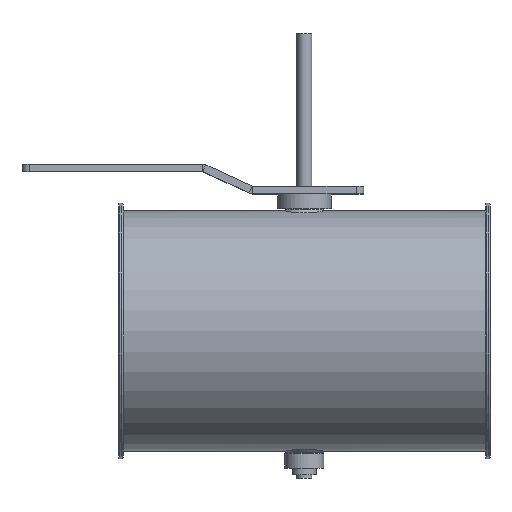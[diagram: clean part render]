
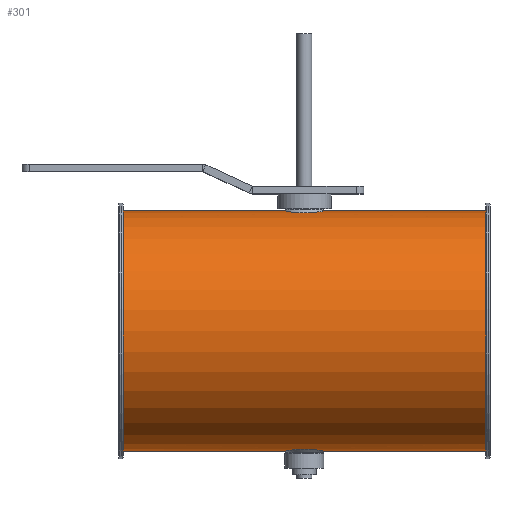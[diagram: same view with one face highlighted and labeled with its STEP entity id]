
A CAD part, top view. The second image highlights one B-rep face of the part: STEP entity #301.
In plain terms, the highlighted cylindrical face has radius 80.8 mm (diameter 161.6 mm), a full revolution.
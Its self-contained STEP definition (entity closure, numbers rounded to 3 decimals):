
#239=B_SPLINE_CURVE_WITH_KNOTS('',3,(#1883,#1884,#1885,#1886,#1887,#1888,
#1889,#1890,#1891,#1892,#1893,#1894,#1895,#1896,#1897,#1898,#1899,#1900,
#1901,#1902,#1903,#1904),.UNSPECIFIED.,.T.,.F.,(2,2,2,2,2,2,2,2,2,2,2,2,
2),(-0.063,0.,0.125,0.25,0.375,0.437,
0.5,0.625,0.75,0.875,0.938,1.,1.125),
 .UNSPECIFIED.);
#240=B_SPLINE_CURVE_WITH_KNOTS('',3,(#1906,#1907,#1908,#1909,#1910,#1911,
#1912,#1913,#1914,#1915,#1916,#1917,#1918,#1919,#1920,#1921,#1922,#1923,
#1924,#1925,#1926,#1927),.UNSPECIFIED.,.T.,.F.,(2,2,2,2,2,2,2,2,2,2,2,2,
2),(-0.125,0.,0.062,0.125,0.25,0.375,0.5,0.563,
0.625,0.75,0.875,1.,1.063),.UNSPECIFIED.);
#266=CYLINDRICAL_SURFACE('',#1328,80.8);
#301=ADVANCED_FACE('',(#441,#442,#443,#444),#266,.T.);
#441=FACE_BOUND('',#575,.T.);
#442=FACE_BOUND('',#576,.T.);
#443=FACE_BOUND('',#577,.T.);
#444=FACE_BOUND('',#578,.T.);
#575=EDGE_LOOP('',(#739));
#576=EDGE_LOOP('',(#740));
#577=EDGE_LOOP('',(#741));
#578=EDGE_LOOP('',(#742));
#739=ORIENTED_EDGE('',*,*,#1107,.T.);
#740=ORIENTED_EDGE('',*,*,#1108,.T.);
#741=ORIENTED_EDGE('',*,*,#1109,.T.);
#742=ORIENTED_EDGE('',*,*,#1110,.F.);
#1001=VERTEX_POINT('',#1882);
#1002=VERTEX_POINT('',#1905);
#1003=VERTEX_POINT('',#1928);
#1004=VERTEX_POINT('',#1930);
#1107=EDGE_CURVE('',#1001,#1001,#1241,.T.);
#1108=EDGE_CURVE('',#1002,#1002,#239,.T.);
#1109=EDGE_CURVE('',#1003,#1003,#240,.T.);
#1110=EDGE_CURVE('',#1004,#1004,#1242,.T.);
#1241=CIRCLE('',#1326,80.8);
#1242=CIRCLE('',#1327,80.8);
#1326=AXIS2_PLACEMENT_3D('',#1881,#1506,#1507);
#1327=AXIS2_PLACEMENT_3D('',#1929,#1508,#1509);
#1328=AXIS2_PLACEMENT_3D('',#1931,#1510,#1511);
#1506=DIRECTION('',(1.,0.,0.));
#1507=DIRECTION('',(0.,0.,1.));
#1508=DIRECTION('',(1.,0.,0.));
#1509=DIRECTION('',(0.,0.,1.));
#1510=DIRECTION('',(1.,0.,0.));
#1511=DIRECTION('',(0.,0.,-1.));
#1881=CARTESIAN_POINT('',(-122.,-38.3,125.));
#1882=CARTESIAN_POINT('',(-122.,-38.3,205.8));
#1883=CARTESIAN_POINT('',(-2.062,-117.599,109.488));
#1884=CARTESIAN_POINT('',(-7.671,-117.937,111.287));
#1885=CARTESIAN_POINT('',(-10.71,-118.443,114.144));
#1886=CARTESIAN_POINT('',(-14.158,-119.079,121.063));
#1887=CARTESIAN_POINT('',(-14.603,-119.187,125.197));
#1888=CARTESIAN_POINT('',(-12.776,-118.819,132.714));
#1889=CARTESIAN_POINT('',(-10.485,-118.352,136.179));
#1890=CARTESIAN_POINT('',(-5.655,-117.819,139.371));
#1891=CARTESIAN_POINT('',(-3.811,-117.676,140.104));
#1892=CARTESIAN_POINT('',(0.052,-117.565,140.679));
#1893=CARTESIAN_POINT('',(2.042,-117.599,140.514));
#1894=CARTESIAN_POINT('',(7.634,-117.934,138.733));
#1895=CARTESIAN_POINT('',(10.688,-118.439,135.895));
#1896=CARTESIAN_POINT('',(14.17,-119.081,128.919));
#1897=CARTESIAN_POINT('',(14.607,-119.188,124.81));
#1898=CARTESIAN_POINT('',(12.77,-118.818,117.267));
#1899=CARTESIAN_POINT('',(10.468,-118.349,113.802));
#1900=CARTESIAN_POINT('',(5.638,-117.818,110.621));
#1901=CARTESIAN_POINT('',(3.774,-117.675,109.887));
#1902=CARTESIAN_POINT('',(-0.058,-117.565,109.324));
#1903=CARTESIAN_POINT('',(-2.062,-117.599,109.488));
#1904=CARTESIAN_POINT('',(-7.671,-117.937,111.287));
#1905=CARTESIAN_POINT('',(-3.932,-117.712,110.088));
#1906=CARTESIAN_POINT('',(-7.672,41.337,111.288));
#1907=CARTESIAN_POINT('',(-2.062,40.999,109.488));
#1908=CARTESIAN_POINT('',(-0.076,40.965,109.323));
#1909=CARTESIAN_POINT('',(3.765,41.074,109.884));
#1910=CARTESIAN_POINT('',(5.623,41.216,110.612));
#1911=CARTESIAN_POINT('',(10.487,41.751,113.813));
#1912=CARTESIAN_POINT('',(12.778,42.219,117.279));
#1913=CARTESIAN_POINT('',(14.609,42.588,124.842));
#1914=CARTESIAN_POINT('',(14.155,42.478,128.954));
#1915=CARTESIAN_POINT('',(10.699,41.841,135.869));
#1916=CARTESIAN_POINT('',(7.658,41.337,138.712));
#1917=CARTESIAN_POINT('',(2.088,41.001,140.505));
#1918=CARTESIAN_POINT('',(0.12,40.964,140.68));
#1919=CARTESIAN_POINT('',(-3.773,41.074,140.118));
#1920=CARTESIAN_POINT('',(-5.62,41.216,139.389));
#1921=CARTESIAN_POINT('',(-10.475,41.749,136.197));
#1922=CARTESIAN_POINT('',(-12.769,42.218,132.74));
#1923=CARTESIAN_POINT('',(-14.61,42.589,125.171));
#1924=CARTESIAN_POINT('',(-14.173,42.481,121.088));
#1925=CARTESIAN_POINT('',(-10.689,41.839,114.106));
#1926=CARTESIAN_POINT('',(-7.672,41.337,111.288));
#1927=CARTESIAN_POINT('',(-2.062,40.999,109.488));
#1928=CARTESIAN_POINT('',(-3.932,41.112,110.088));
#1929=CARTESIAN_POINT('',(122.,-38.3,125.));
#1930=CARTESIAN_POINT('',(122.,-38.3,205.8));
#1931=CARTESIAN_POINT('',(-125.,-38.3,125.));
